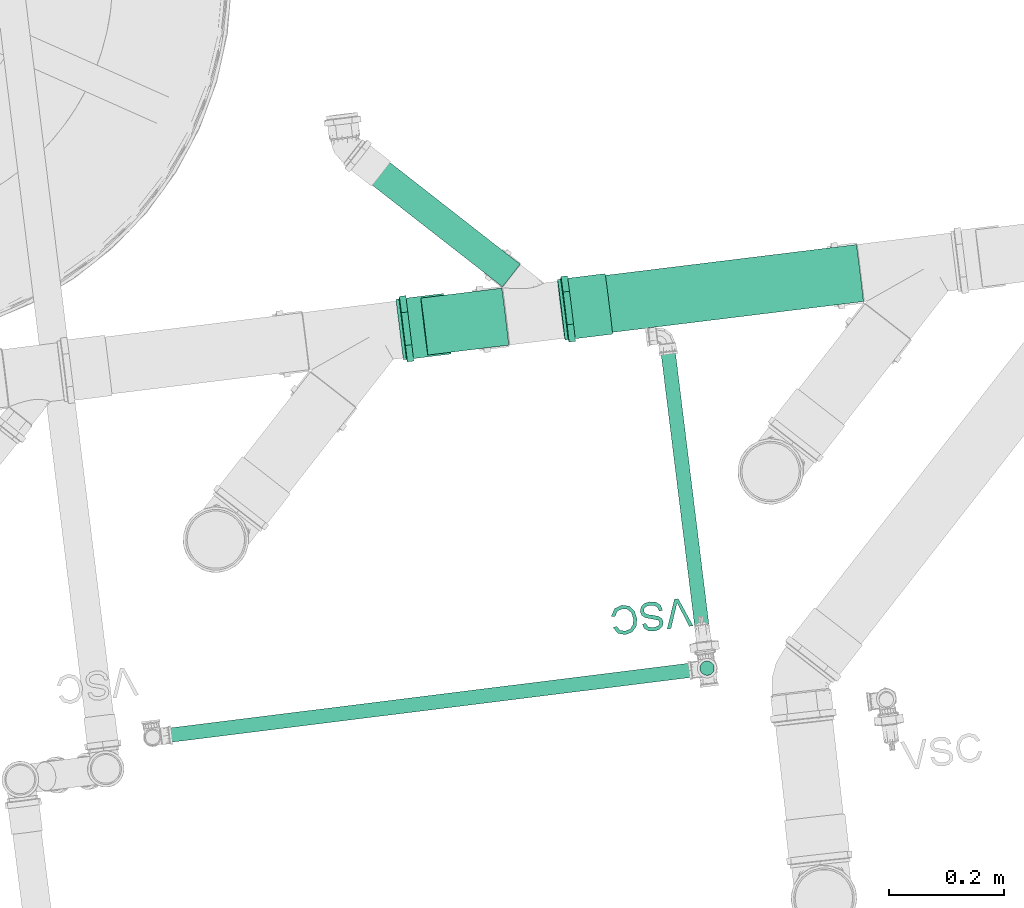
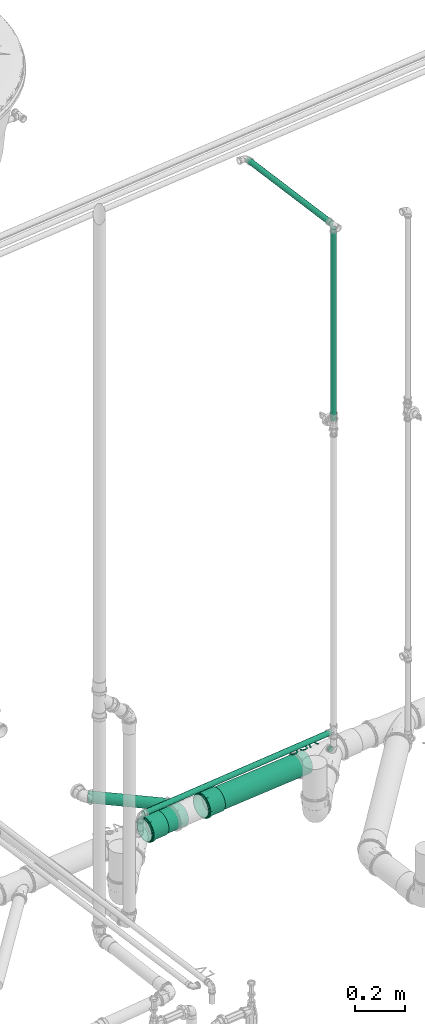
# One storey, part 24 of 97: 6 flow segments, 2 flow fittings, 1 flow terminal.
"""IFC2X3 building model written with IfcOpenShell, lengths in centimetres."""

import ifcopenshell
import ifcopenshell.guid

model = None  # the IFC model being written
_history = None  # IfcOwnerHistory: only IFC2X3 demands one
_inside = {}  # id of a spatial element -> (the spatial element, [elements in it])
_under = {}  # id of a project, library or spatial element -> (it, [spatial elements below it])
_declared = {}  # id of a project -> (the project, [libraries it declares])
_typed = {}  # id of a type object -> (the type object, [elements of that type])
_made_of = {}  # id of a material, layer set ... -> (it, [elements and type objects made of it])


def new_model(schema):
    """Start an empty IFC model of exactly this schema.

    Asked for "IFC4X3", IfcOpenShell would pick the latest addendum, in which some entities
    have other attributes; the version numbers below select the first issue.
    IFC2X3 requires an IfcOwnerHistory on every rooted entity: one is made here for all.
    """
    global model, _history
    if schema == "IFC4X3":
        model = ifcopenshell.file(schema_version=(4, 3, 0, 0))
    else:
        model = ifcopenshell.file(schema=schema)
    _inside.clear()
    _under.clear()
    _declared.clear()
    _typed.clear()
    _made_of.clear()
    _history = None
    if model.schema == "IFC2X3":
        org = make("IfcOrganization", Name="unknown")
        user = make(
            "IfcPersonAndOrganization",
            ThePerson=make("IfcPerson", FamilyName="unknown"),
            TheOrganization=org,
        )
        app = make(
            "IfcApplication",
            ApplicationDeveloper=org,
            Version="unknown",
            ApplicationFullName="unknown",
            ApplicationIdentifier="unknown",
        )
        _history = make(
            "IfcOwnerHistory",
            OwningUser=user,
            OwningApplication=app,
            ChangeAction="ADDED",
            CreationDate=0,
        )
    return model


def make(cls, **values):
    """One entity of the class cls with the attributes given. An attribute that is None is left unset."""
    return model.create_entity(
        cls, **{name: value for name, value in values.items() if value is not None}
    )


def entity(cls, *values):
    """Any entity or typed value of the class cls, its attributes in the order of the schema. None: left unset."""
    e = model.create_entity(cls)
    for i, value in enumerate(values):
        if value is not None:
            e[i] = value
    return e


def rooted(cls, **values):
    """An entity with a GlobalId (a new one), such as an element, a storey or a relation."""
    return make(cls, GlobalId=ifcopenshell.guid.new(), OwnerHistory=_history, **values)


def si_unit(unit_type, name, prefix=None):
    """IfcSIUnit, for example si_unit("LENGTHUNIT", "METRE", prefix="MILLI")."""
    return make("IfcSIUnit", UnitType=unit_type, Prefix=prefix, Name=name)


def converted_unit(unit_type, name, factor, base, dimensions=None, offset=None):
    """IfcConversionBasedUnit, such as the inch: factor (a typed value) times the base unit."""
    return make(
        "IfcConversionBasedUnit"
        if offset is None
        else "IfcConversionBasedUnitWithOffset",
        ConversionOffset=offset,
        Dimensions=None
        if dimensions is None
        else entity("IfcDimensionalExponents", *dimensions),
        UnitType=unit_type,
        Name=name,
        ConversionFactor=make(
            "IfcMeasureWithUnit", ValueComponent=factor, UnitComponent=base
        ),
    )


def derived_unit(unit_type, elements):
    """IfcDerivedUnit: a product of units, each with its exponent."""
    return make(
        "IfcDerivedUnit",
        Elements=[
            make("IfcDerivedUnitElement", Unit=unit, Exponent=power)
            for unit, power in elements
        ],
        UnitType=unit_type,
    )


def assignment(units):
    """IfcUnitAssignment: the units of a project."""
    return None if units is None else make("IfcUnitAssignment", Units=units)


def point(xyz):
    """IfcCartesianPoint."""
    return None if xyz is None else make("IfcCartesianPoint", Coordinates=xyz)


def direction(xyz):
    """IfcDirection."""
    return None if xyz is None else make("IfcDirection", DirectionRatios=xyz)


def frame(location, z_axis=None, x_axis=None):
    """IfcAxis2Placement3D, a coordinate frame: its origin and axes. An axis left out is left unset."""
    return make(
        "IfcAxis2Placement3D",
        Location=point(location),
        Axis=direction(z_axis),
        RefDirection=direction(x_axis),
    )


def frame_2d(location, x_axis=None):
    """IfcAxis2Placement2D, a coordinate frame in the plane: its origin and x axis."""
    return make(
        "IfcAxis2Placement2D", Location=point(location), RefDirection=direction(x_axis)
    )


def origin():
    """The frame at (0, 0, 0) with its axes left unset."""
    return frame((0.0, 0.0, 0.0))


def origin_2d_with_axis():
    """The frame at (0, 0) in the plane with the x axis (1, 0) written out."""
    return frame_2d((0.0, 0.0), x_axis=(1.0, 0.0))


def place(relative_to, where):
    """IfcLocalPlacement: puts the frame where relative to a parent placement (None: the world)."""
    return make(
        "IfcLocalPlacement", PlacementRelTo=relative_to, RelativePlacement=where
    )


def context(
    kind, dimensions, precision=None, world=None, true_north=None, identifier=None
):
    """IfcGeometricRepresentationContext, for example the 3D "Model" context."""
    return make(
        "IfcGeometricRepresentationContext",
        ContextIdentifier=identifier,
        ContextType=kind,
        CoordinateSpaceDimension=dimensions,
        Precision=precision,
        WorldCoordinateSystem=world,
        TrueNorth=true_north,
    )


def subcontext(parent, identifier, kind, view, scale=None):
    """IfcGeometricRepresentationSubContext, for example "Body" below "Model"."""
    return make(
        "IfcGeometricRepresentationSubContext",
        ContextIdentifier=identifier,
        ContextType=kind,
        ParentContext=parent,
        TargetScale=scale,
        TargetView=view,
    )


def project(units=None, contexts=None):
    """IfcProject with its units and contexts."""
    return rooted(
        "IfcProject",
        Name="project",
        RepresentationContexts=contexts,
        UnitsInContext=assignment(units),
    )


def spatial(cls, under=None, at=None, **own):
    """A site, building, storey or space (cls), placed at a placement, below another one or the project."""
    s = rooted(cls, ObjectPlacement=at, **own)
    if under is not None:
        _under.setdefault(under.id(), (under, []))[1].append(s)
    return s


def polyline(points):
    """IfcPolyline through the points."""
    return make("IfcPolyline", Points=[point(p) for p in points])


def profile(cls, at=None, kind="AREA", **sizes):
    """A parametric profile (cls). Its sizes go by their IFC names, for example OverallWidth=200.0."""
    return make(cls, ProfileType=kind, Position=at, **sizes)


def circle(**sizes):
    """IfcCircleProfileDef."""
    return profile("IfcCircleProfileDef", **sizes)


def outline(outer, holes=None, kind="AREA"):
    """IfcArbitraryClosedProfileDef: a profile drawn as a closed curve; with holes, ...WithVoids."""
    if holes is None:
        return make("IfcArbitraryClosedProfileDef", ProfileType=kind, OuterCurve=outer)
    return make(
        "IfcArbitraryProfileDefWithVoids",
        ProfileType=kind,
        OuterCurve=outer,
        InnerCurves=holes,
    )


def extrude(swept, where, along, depth):
    """IfcExtrudedAreaSolid: the profile swept, set in the frame where, extruded along a direction by depth."""
    return make(
        "IfcExtrudedAreaSolid",
        SweptArea=swept,
        Position=where,
        ExtrudedDirection=direction(along),
        Depth=depth,
    )


def faces_of(points, faces, orient=None, outer=None):
    """IfcFace entities. A face is a list of loops; a loop is a list of indices into points, from 0.

    orient and outer hold one flag for each loop. By default every Orientation is true, the
    first loop of a face is its IfcFaceOuterBound and the others are IfcFaceBound.
    """
    made = []
    for i, loops in enumerate(faces):
        bounds = []
        for j, loop in enumerate(loops):
            is_outer = j == 0 if outer is None else outer[i][j]
            bounds.append(
                make(
                    "IfcFaceOuterBound" if is_outer else "IfcFaceBound",
                    Bound=make("IfcPolyLoop", Polygon=[points[k] for k in loop]),
                    Orientation=True if orient is None else orient[i][j],
                )
            )
        made.append(make("IfcFace", Bounds=bounds))
    return made


def faceted_brep(points, faces, orient=None, outer=None, voids=None):
    """IfcFacetedBrep: a solid bounded by flat faces; with voids (closed shells), ...WithVoids."""
    shared = [point(p) for p in points]
    hull = make("IfcClosedShell", CfsFaces=faces_of(shared, faces, orient, outer))
    if voids is None:
        return make("IfcFacetedBrep", Outer=hull)
    return make(
        "IfcFacetedBrepWithVoids",
        Outer=hull,
        Voids=[
            make(cls, CfsFaces=faces_of(shared, fs, o, b)) for cls, fs, o, b in voids
        ],
    )


def shape(context_of_items, identifier, shape_type, items):
    """IfcShapeRepresentation: the items that make up one representation, for example the "Body"."""
    return make(
        "IfcShapeRepresentation",
        ContextOfItems=context_of_items,
        RepresentationIdentifier=identifier,
        RepresentationType=shape_type,
        Items=items,
    )


def source(mapping_origin, context_of_items, identifier, shape_type, items):
    """IfcRepresentationMap: a shape defined once, which mapped items show again and again."""
    return make(
        "IfcRepresentationMap",
        MappingOrigin=mapping_origin,
        MappedRepresentation=shape(context_of_items, identifier, shape_type, items),
    )


def transform(
    local_origin,
    x_axis=None,
    y_axis=None,
    z_axis=None,
    scale=None,
    scale2=None,
    scale3=None,
    uniform=True,
):
    """IfcCartesianTransformationOperator3D, or its non-uniform kind. x_axis, y_axis, z_axis: its Axis1, 2, 3."""
    if uniform:
        return make(
            "IfcCartesianTransformationOperator3D",
            Axis1=direction(x_axis),
            Axis2=direction(y_axis),
            LocalOrigin=point(local_origin),
            Scale=scale,
            Axis3=direction(z_axis),
        )
    return make(
        "IfcCartesianTransformationOperator3DnonUniform",
        Axis1=direction(x_axis),
        Axis2=direction(y_axis),
        LocalOrigin=point(local_origin),
        Scale=scale,
        Axis3=direction(z_axis),
        Scale2=scale2,
        Scale3=scale3,
    )


def mapped(mapping_source, mapping_target):
    """IfcMappedItem: shows the shape of a source again, moved by a transform."""
    return make(
        "IfcMappedItem", MappingSource=mapping_source, MappingTarget=mapping_target
    )


def material(Name=None, Category=None):
    """IfcMaterial."""
    return make("IfcMaterial", Name=Name, Category=Category)


def material_list(materials):
    """IfcMaterialList."""
    return make("IfcMaterialList", Materials=materials)


def made_of(thing, what):
    """Note that an element or type object is made of a material, layer set ...; save() writes the relation."""
    if what is not None:
        _made_of.setdefault(what.id(), (what, []))[1].append(thing)
    return thing


def type_object(cls, material=None, **own):
    """A type object (cls), such as IfcWallType, which elements share."""
    return made_of(rooted(cls, **own), material)


def type_shapes(of_type, sources):
    """Give a type object the sources (RepresentationMaps) that its elements show as mapped items."""
    of_type.RepresentationMaps = sources


def element(
    cls,
    number,
    at=None,
    inside=None,
    cuts=None,
    type_object=None,
    material=None,
    context=None,
    identifier="Body",
    shape_type=None,
    held_by="IfcProductDefinitionShape",
    body=None,
    shapes=None,
    **own,
):
    """One element of the class cls, such as IfcWall. Its Tag is "e" and its number.

    at: its placement. inside: the storey or other place that contains it. cuts: it is an
    opening in that element (IfcRelVoidsElement). A single representation is given by context,
    identifier, shape_type and body (its items); several are given by shapes. held_by: the class
    of the entity that holds the representations. save() writes the other relations.
    """
    e = rooted(cls, Tag="e%d" % number, ObjectPlacement=at, **own)
    if body is not None:
        shapes = [shape(context, identifier, shape_type, body)]
    if shapes is not None:
        e.Representation = make(held_by, Representations=shapes)
    if inside is not None:
        _inside.setdefault(inside.id(), (inside, []))[1].append(e)
    if cuts is not None:
        rooted(
            "IfcRelVoidsElement", RelatingBuildingElement=cuts, RelatedOpeningElement=e
        )
    if type_object is not None:
        _typed.setdefault(type_object.id(), (type_object, []))[1].append(e)
    return made_of(e, material)


def aggregate(whole, parts):
    """IfcRelAggregates: a whole, such as a stair, and the parts it consists of."""
    return rooted("IfcRelAggregates", RelatingObject=whole, RelatedObjects=parts)


def save(model, path):
    """Write the relations noted so far, then the file.

    IfcRelAggregates (storeys below a building ...), IfcRelContainedInSpatialStructure (elements
    in a storey), IfcRelDefinesByType, IfcRelAssociatesMaterial and IfcRelDeclares: one each for
    every whole, place, type object, material and project.
    """
    for whole, parts in _under.values():
        aggregate(whole, parts)
    for where, things in _inside.values():
        rooted(
            "IfcRelContainedInSpatialStructure",
            RelatedElements=things,
            RelatingStructure=where,
        )
    for kind, things in _typed.values():
        rooted("IfcRelDefinesByType", RelatedObjects=things, RelatingType=kind)
    for what, things in _made_of.values():
        rooted("IfcRelAssociatesMaterial", RelatedObjects=things, RelatingMaterial=what)
    for by, libraries in _declared.values():
        rooted("IfcRelDeclares", RelatingContext=by, RelatedDefinitions=libraries)
    model.write(path)


model = new_model("IFC2X3")

# Units and contexts
model_context = context("Model", 3, precision=0.001, world=origin(), true_north=direction((6.12303176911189e-17, 1.0)))
body_context = subcontext(model_context, "Body", "Model", "MODEL_VIEW")
ifc_project = project(units=[si_unit("LENGTHUNIT", "METRE", prefix="CENTI"), si_unit("AREAUNIT", "SQUARE_METRE"), si_unit("VOLUMEUNIT", "CUBIC_METRE"), converted_unit("PLANEANGLEUNIT", "DEGREE", entity("IfcRatioMeasure", 0.0174532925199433), si_unit("PLANEANGLEUNIT", "RADIAN"), dimensions=[0, 0, 0, 0, 0, 0, 0]), si_unit("MASSUNIT", "GRAM", prefix="KILO"), derived_unit("MASSDENSITYUNIT", [(si_unit("MASSUNIT", "GRAM", prefix="KILO"), 1), (si_unit("LENGTHUNIT", "METRE"), -3)]), derived_unit("MOMENTOFINERTIAUNIT", [(si_unit("LENGTHUNIT", "METRE"), 4)]), si_unit("TIMEUNIT", "SECOND"), si_unit("FREQUENCYUNIT", "HERTZ"), si_unit("THERMODYNAMICTEMPERATUREUNIT", "DEGREE_CELSIUS"), derived_unit("THERMALTRANSMITTANCEUNIT", [(si_unit("MASSUNIT", "GRAM", prefix="KILO"), 1), (si_unit("THERMODYNAMICTEMPERATUREUNIT", "KELVIN"), -1), (si_unit("TIMEUNIT", "SECOND"), -3)]), derived_unit("VOLUMETRICFLOWRATEUNIT", [(si_unit("LENGTHUNIT", "METRE"), 3), (si_unit("TIMEUNIT", "SECOND"), -1)]), si_unit("ELECTRICCURRENTUNIT", "AMPERE"), si_unit("ELECTRICVOLTAGEUNIT", "VOLT"), si_unit("POWERUNIT", "WATT"), si_unit("FORCEUNIT", "NEWTON", prefix="KILO"), si_unit("ILLUMINANCEUNIT", "LUX"), si_unit("LUMINOUSFLUXUNIT", "LUMEN"), si_unit("LUMINOUSINTENSITYUNIT", "CANDELA"), derived_unit("USERDEFINED", [(si_unit("MASSUNIT", "GRAM", prefix="KILO"), -1), (si_unit("LENGTHUNIT", "METRE"), -2), (si_unit("TIMEUNIT", "SECOND"), 3), (si_unit("LUMINOUSFLUXUNIT", "LUMEN"), 1)]), derived_unit("LINEARVELOCITYUNIT", [(si_unit("LENGTHUNIT", "METRE"), 1), (si_unit("TIMEUNIT", "SECOND"), -1)]), si_unit("PRESSUREUNIT", "PASCAL"), derived_unit("USERDEFINED", [(si_unit("LENGTHUNIT", "METRE"), -2), (si_unit("MASSUNIT", "GRAM", prefix="KILO"), 1), (si_unit("TIMEUNIT", "SECOND"), -2)]), derived_unit("LINEARFORCEUNIT", [(si_unit("MASSUNIT", "GRAM", prefix="KILO"), 1), (si_unit("LENGTHUNIT", "METRE"), 1), (si_unit("TIMEUNIT", "SECOND"), -2), (si_unit("LENGTHUNIT", "METRE"), -1)]), derived_unit("PLANARFORCEUNIT", [(si_unit("MASSUNIT", "GRAM", prefix="KILO"), 1), (si_unit("LENGTHUNIT", "METRE"), 1), (si_unit("TIMEUNIT", "SECOND"), -2), (si_unit("LENGTHUNIT", "METRE"), -2)])], contexts=[model_context])

# Site, building, storey
site_placement = place(None, origin())
site = spatial("IfcSite", under=ifc_project, at=site_placement, Name="Default", CompositionType="ELEMENT")
building_placement = place(site_placement, origin())
building = spatial("IfcBuilding", under=site, at=building_placement, Name="HIDROSSANITÁRIO", CompositionType="ELEMENT")
storey_placement = place(building_placement, frame((0.0, 0.0, -260.0)))
storey = spatial("IfcBuildingStorey", under=building, at=storey_placement, Name="TÉRREO-HID", CompositionType="ELEMENT", Elevation=-260.0)

# Flow segments
pipe_segment_type_1 = type_object("IfcPipeSegmentType", Name="Tipos de tubos:Tubo Marrom - Água Fria - Soldável", PredefinedType="NOTDEFINED")
flow_segment_1_placement = place(storey_placement, origin())
element("IfcFlowSegment", 1, at=flow_segment_1_placement, inside=storey, type_object=pipe_segment_type_1, Name="Tipos de tubos:Tubo Marrom - Água Fria - Soldável", ObjectType="Tipos de tubos:Tubo Marrom - Água Fria - Soldável", context=body_context, shape_type="SweptSolid", body=[
    extrude(circle(Radius=1.25, at=origin_2d_with_axis()), frame((-1604.66303266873, 2907.75219175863, 30.0), z_axis=(0.992315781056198, 0.12373112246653, 0.0), x_axis=(0.12373112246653, -0.992315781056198, 0.0)), (0.0, 0.0, 1.0), 94.23277941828),
])
flow_segment_2_placement = place(storey_placement, origin())
element("IfcFlowSegment", 2, at=flow_segment_2_placement, inside=storey, type_object=pipe_segment_type_1, Name="Tipos de tubos:Tubo Marrom - Água Fria - Soldável", ObjectType="Tipos de tubos:Tubo Marrom - Água Fria - Soldável", context=body_context, shape_type="SweptSolid", body=[
    extrude(circle(Radius=1.25, at=frame_2d((3.0654675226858e-21, -4.33146879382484e-13), x_axis=(1.0, 0.0))), frame((-1509.71550067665, 2919.59112945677, 182.0), z_axis=(-2.26470446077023e-07, 2.04376180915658e-06, 1.0), x_axis=(-1.0, 0.0, -2.26470446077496e-07)), (0.0, 0.0, 1.0), 93.9402573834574),
])
flow_segment_3_placement = place(storey_placement, origin())
element("IfcFlowSegment", 3, at=flow_segment_3_placement, inside=storey, type_object=pipe_segment_type_1, Name="Tipos de tubos:Tubo Marrom - Água Fria - Soldável", ObjectType="Tipos de tubos:Tubo Marrom - Água Fria - Soldável", context=body_context, shape_type="SweptSolid", body=[
    extrude(circle(Radius=1.25, at=frame_2d((-2.67880713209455e-13, -9.11370408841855e-18), x_axis=(1.0, 0.0))), frame((-1516.66014723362, 2975.99557307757, 277.388973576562), z_axis=(0.12219963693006, -0.992505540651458, 2.25902407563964e-05), x_axis=(0.992505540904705, 0.122199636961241, 0.0)), (0.0, 0.0, 1.0), 55.2401302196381),
])
pipe_segment_type_2 = type_object("IfcPipeSegmentType", Name="Tipos de tubos:Tubo - Esgoto - Série Normal", PredefinedType="NOTDEFINED")
flow_segment_4_placement = place(storey_placement, origin())
element("IfcFlowSegment", 4, at=flow_segment_4_placement, inside=storey, type_object=pipe_segment_type_2, Name="Tipos de tubos:Tubo - Esgoto - Série Normal", ObjectType="Tipos de tubos:Tubo - Esgoto - Série Normal", context=body_context, shape_type="SweptSolid", body=[
    extrude(circle(Radius=2.5, at=origin_2d_with_axis()), frame((-1543.80575304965, 2987.93998559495, -35.800184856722), z_axis=(-0.787905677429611, 0.61547107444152, 0.0199999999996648), x_axis=(-0.615594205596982, -0.788063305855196, 0.0)), (0.0, 0.0, 1.0), 34.9350621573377),
])
flow_segment_5_placement = place(storey_placement, origin())
element("IfcFlowSegment", 5, at=flow_segment_5_placement, inside=storey, type_object=pipe_segment_type_2, Name="Tipos de tubos:Tubo - Esgoto - Série Normal", ObjectType="Tipos de tubos:Tubo - Esgoto - Série Normal", context=body_context, shape_type="SweptSolid", body=[
    extrude(circle(Radius=5.0, at=origin_2d_with_axis()), frame((-1530.80945706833, 2982.50262980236, -35.7165583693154), z_axis=(0.992506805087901, 0.121779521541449, -0.00999949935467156), x_axis=(0.121785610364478, -0.992556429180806, 0.0)), (0.0, 0.0, 1.0), 48.0553797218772),
])
flow_segment_6_placement = place(storey_placement, origin())
element("IfcFlowSegment", 6, at=flow_segment_6_placement, inside=storey, type_object=pipe_segment_type_2, Name="Tipos de tubos:Tubo - Esgoto - Série Normal", ObjectType="Tipos de tubos:Tubo - Esgoto - Série Normal", context=body_context, shape_type="SweptSolid", body=[
    extrude(circle(Radius=5.0, at=origin_2d_with_axis()), frame((-1544.83351538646, 2980.77026558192, -35.5752683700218), z_axis=(-0.992515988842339, -0.121704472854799, 0.0100016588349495), x_axis=(0.121710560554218, -0.992565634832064, 0.0)), (0.0, 0.0, 1.0), 14.1934160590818),
])

# Flow fittings
ifc_material_1 = material(Name="PVC Branco")
pipe_fitting_type = type_object("IfcPipeFittingType", Name="Luva Simples para Conexão - Serie Normal - Esgoto - MEP - Tigre:Standard", PredefinedType="NOTDEFINED", material=ifc_material_1)
shared_shape_1 = source(origin(), body_context, "Body", "Brep", [
    faceted_brep([(1.77700000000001, 2.8725, -4.9753159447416), (1.77700000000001, 4.06232845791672, -4.06232845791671), (1.77700000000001, 2.65249999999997, -4.59426476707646), (1.77700000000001, 1.37303503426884, -5.12423650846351), (1.77700000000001, 1.48691541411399, -5.5492438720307), (1.77700000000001, 3.75120147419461, -3.75120147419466), (1.77700000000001, 4.9753159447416, -2.8725), (1.77700000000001, 4.59426476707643, -2.65250000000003), (1.77700000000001, 5.1242365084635, -1.37303503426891), (1.77700000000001, 5.5492438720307, -1.48691541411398), (1.77700000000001, 5.305, 0.0), (1.77700000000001, 5.745, 0.0), (1.77700000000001, 5.1242365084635, 1.3730350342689), (1.77700000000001, 5.54924387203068, 1.48691541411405), (1.77700000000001, 4.59426476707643, 2.65250000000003), (1.77700000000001, 4.97531594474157, 2.87250000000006), (1.77700000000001, 3.75120147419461, 3.75120147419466), (1.77700000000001, 4.06232845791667, 4.06232845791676), (1.77700000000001, 2.65249999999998, 4.59426476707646), (1.77700000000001, 2.87249999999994, 4.97531594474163), (1.77700000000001, 1.37303503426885, 5.12423650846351), (1.77700000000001, 1.48691541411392, 5.54924387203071), (1.77700000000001, 0.0, 5.305), (1.77700000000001, 0.0, 5.745), (1.77700000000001, -1.37303503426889, 5.1242365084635), (1.77700000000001, -1.48691541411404, 5.54924387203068), (1.77700000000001, -2.65250000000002, 4.59426476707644), (1.77700000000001, -2.87250000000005, 4.97531594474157), (1.77700000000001, -3.75120147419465, 3.75120147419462), (1.77700000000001, -4.06232845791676, 4.06232845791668), (1.77700000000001, -4.59426476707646, 2.65249999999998), (1.77700000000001, -4.97531594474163, 2.87249999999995), (1.77700000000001, -5.54924387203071, 1.48691541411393), (1.77700000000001, -5.12423650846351, 1.37303503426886), (1.77700000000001, -5.745, 0.0), (1.77700000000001, -5.305, 0.0), (1.77700000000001, -5.54924387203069, -1.486915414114), (1.77700000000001, -5.12423650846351, -1.37303503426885), (1.77700000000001, -4.97531594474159, -2.87250000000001), (1.77700000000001, -4.59426476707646, -2.65249999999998), (1.77700000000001, -4.06232845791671, -4.06232845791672), (1.77700000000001, -3.75120147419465, -3.75120147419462), (1.77700000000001, -2.87249999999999, -4.97531594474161), (1.77700000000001, -2.65250000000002, -4.59426476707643), (1.77700000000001, -1.48691541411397, -5.5492438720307), (1.77700000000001, -1.3730350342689, -5.1242365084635), (1.77700000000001, 0.0, -5.745), (1.77700000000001, 0.0, -5.305), (0.657000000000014, -1.93463887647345, 5.31665771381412), (0.657000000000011, -4.4007619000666, 3.69300957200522), (0.657000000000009, -4.89962626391, 2.82901737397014), (0.657000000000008, -5.39849062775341, 1.96502517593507), (0.657000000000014, -2.87216972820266, 4.97550661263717), (0.657000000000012, -3.63646581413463, 4.3342580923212), (0.657000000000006, -5.5717453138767, 0.982512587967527), (0.657000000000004, -5.745, 0.0), (0.657000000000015, -0.997108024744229, 5.65780881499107), (0.657000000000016, 0.998234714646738, 5.65761013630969), (0.657000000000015, 0.0005633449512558, 5.65770947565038), (0.657000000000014, 3.63732887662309, 4.33353383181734), (0.657000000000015, 1.93569761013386, 5.31627233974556), (0.657000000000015, 2.87316050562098, 4.97493454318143), (0.65700000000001, 5.39888184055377, 1.96395006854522), (0.657000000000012, 4.90018954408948, 2.82804159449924), (0.657000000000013, 4.40149724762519, 3.69213312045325), (0.657000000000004, 5.745, 0.0), (0.656999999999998, 4.40149724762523, -3.6921331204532), (0.657, 4.90018954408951, -2.82804159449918), (0.657000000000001, 5.39888184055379, -1.96395006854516), (0.656999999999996, 2.87316050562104, -4.9749345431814), (0.656999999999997, 3.63732887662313, -4.3335338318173), (0.656999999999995, 1.93569761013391, -5.31627233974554), (0.656999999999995, 0.998234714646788, -5.65761013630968), (0.656999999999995, -0.997108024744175, -5.65780881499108), (0.656999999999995, 0.000563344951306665, -5.65770947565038), (0.656999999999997, -3.6364658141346, -4.33425809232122), (0.656999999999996, -2.87216972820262, -4.9755066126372), (0.656999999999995, -1.9346388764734, -5.31665771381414), (0.657000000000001, -5.39849062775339, -1.96502517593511), (0.657, -4.89962626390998, -2.82901737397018), (0.656999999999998, -4.40076190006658, -3.69300957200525), (0.657000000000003, -5.5717453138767, -0.982512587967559), (8.35200000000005, 2.6525, -4.59426476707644), (8.35200000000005, 3.75120147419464, -3.75120147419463), (8.35200000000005, 2.49999999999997, -4.33012701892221), (8.35200000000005, 1.29409522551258, -4.82962913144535), (8.35200000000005, 1.37303503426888, -5.1242365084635), (8.35200000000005, 3.53553390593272, -3.53553390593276), (8.35200000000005, 4.59426476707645, -2.6525), (8.35200000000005, 4.33012701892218, -2.50000000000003), (8.35200000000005, 4.82962913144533, -1.29409522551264), (8.35200000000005, 5.12423650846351, -1.37303503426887), (8.35200000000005, 5.0, 0.0), (8.35200000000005, 5.305, 0.0), (8.35200000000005, 4.82962913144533, 1.29409522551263), (8.35200000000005, 5.12423650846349, 1.37303503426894), (8.35200000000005, 4.33012701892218, 2.50000000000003), (8.35200000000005, 4.59426476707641, 2.65250000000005), (8.35200000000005, 3.53553390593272, 3.53553390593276), (8.35200000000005, 3.75120147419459, 3.75120147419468), (8.35200000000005, 2.49999999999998, 4.33012701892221), (8.35200000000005, 2.65249999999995, 4.59426476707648), (8.35200000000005, 1.29409522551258, 4.82962913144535), (8.35200000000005, 1.37303503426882, 5.12423650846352), (8.35200000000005, 0.0, 5.0), (8.35200000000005, 0.0, 5.305), (8.35200000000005, -1.29409522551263, 4.82962913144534), (8.35200000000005, -1.37303503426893, 5.12423650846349), (8.35200000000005, -2.50000000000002, 4.33012701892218), (8.35200000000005, -2.65250000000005, 4.59426476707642), (8.35200000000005, -3.53553390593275, 3.53553390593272), (8.35200000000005, -3.75120147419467, 3.7512014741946), (8.35200000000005, -4.3301270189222, 2.49999999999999), (8.35200000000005, -4.59426476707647, 2.65249999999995), (8.35200000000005, -5.12423650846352, 1.37303503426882), (8.35200000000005, -4.82962913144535, 1.29409522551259), (8.35200000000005, -5.305, 0.0), (8.35200000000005, -5.0, 0.0), (8.35200000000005, -5.1242365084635, -1.37303503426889), (8.35200000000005, -4.82962913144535, -1.29409522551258), (8.35200000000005, -4.59426476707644, -2.65250000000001), (8.35200000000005, -4.3301270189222, -2.49999999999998), (8.35200000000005, -3.75120147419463, -3.75120147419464), (8.35200000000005, -3.53553390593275, -3.53553390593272), (8.35200000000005, -2.65249999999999, -4.59426476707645), (8.35200000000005, -2.50000000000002, -4.33012701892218), (8.35200000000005, -1.37303503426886, -5.12423650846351), (8.35200000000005, -1.29409522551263, -4.82962913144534), (8.35200000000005, 0.0, -5.305), (8.35200000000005, 0.0, -5.0), (0.0, 2.49999999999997, -4.33012701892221), (0.0, 3.75120147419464, -3.75120147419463), (0.0, 2.6525, -4.59426476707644), (0.0, 1.29409522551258, -4.82962913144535), (0.0, 3.53553390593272, -3.53553390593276), (0.0, 4.59426476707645, -2.6525), (0.0, 4.33012701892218, -2.50000000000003), (0.0, 4.82962913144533, -1.29409522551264), (0.0, 5.12423650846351, -1.37303503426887), (0.0, 5.0, 0.0), (0.0, 5.305, 0.0), (0.0, 4.82962913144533, 1.29409522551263), (0.0, 5.12423650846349, 1.37303503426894), (0.0, 4.33012701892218, 2.50000000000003), (0.0, 4.59426476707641, 2.65250000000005), (0.0, 3.53553390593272, 3.53553390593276), (0.0, 3.75120147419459, 3.75120147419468), (0.0, 2.49999999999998, 4.33012701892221), (0.0, 2.65249999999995, 4.59426476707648), (0.0, 1.29409522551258, 4.82962913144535), (0.0, 1.37303503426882, 5.12423650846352), (0.0, 0.0, 5.0), (0.0, 0.0, 5.305), (0.0, -1.29409522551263, 4.82962913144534), (0.0, -1.37303503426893, 5.12423650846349), (0.0, -2.50000000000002, 4.33012701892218), (0.0, -2.65250000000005, 4.59426476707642), (0.0, -3.53553390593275, 3.53553390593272), (0.0, -3.75120147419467, 3.7512014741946), (0.0, -4.3301270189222, 2.49999999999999), (0.0, -4.59426476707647, 2.65249999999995), (0.0, -5.12423650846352, 1.37303503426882), (0.0, -4.82962913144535, 1.29409522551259), (0.0, -5.305, 0.0), (0.0, -5.0, 0.0), (0.0, -5.1242365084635, -1.37303503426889), (0.0, -4.82962913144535, -1.29409522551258), (0.0, -4.59426476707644, -2.65250000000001), (0.0, -4.3301270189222, -2.49999999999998), (0.0, -3.75120147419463, -3.75120147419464), (0.0, -3.53553390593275, -3.53553390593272), (0.0, -2.65249999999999, -4.59426476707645), (0.0, -2.50000000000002, -4.33012701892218), (0.0, -1.37303503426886, -5.12423650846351), (0.0, -1.29409522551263, -4.82962913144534), (0.0, 0.0, -5.305), (0.0, 0.0, -5.0), (0.0, 1.37303503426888, -5.1242365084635), (0.537000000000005, -5.305, 0.0), (0.537000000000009, -4.98507989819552, 1.81438788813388), (0.537000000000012, -4.06390540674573, 3.4099410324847), (0.537000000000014, -2.65258010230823, 4.59421851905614), (0.537000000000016, -0.921325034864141, 5.22438371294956), (0.537000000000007, 5.1449924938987, 0.907324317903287), (0.537000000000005, 5.305, 0.0), (0.537000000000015, 2.65233979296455, 4.59435725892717), (0.537000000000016, 0.921051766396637, 5.22443189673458), (0.537000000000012, 4.06372704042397, 3.41015359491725), (0.537000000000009, 4.9849849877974, 1.81464863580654), (0.537000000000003, 5.14499249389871, -0.907324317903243), (0.537000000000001, 4.98498498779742, -1.81464863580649), (0.536999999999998, 4.063727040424, -3.41015359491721), (0.536999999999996, 2.6523397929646, -4.59435725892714), (0.536999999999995, 0.921051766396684, -5.22443189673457), (0.536999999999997, -2.6525801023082, -4.59421851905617), (0.536999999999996, -0.921325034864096, -5.22438371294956), (0.536999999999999, -4.0639054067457, -3.40994103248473), (0.537000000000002, -4.98507989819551, -1.81438788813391), (5.0, -5.0, 0.0), (5.0, 5.0, 0.0)], [[[0, 1, 2]], [[0, 2, 3]], [[3, 4, 0]], [[2, 1, 5]], [[6, 5, 1]], [[5, 6, 7]], [[7, 6, 8]], [[9, 8, 6]], [[9, 10, 8]], [[10, 9, 11]], [[12, 10, 11]], [[11, 13, 12]], [[12, 13, 14]], [[15, 14, 13]], [[14, 15, 16]], [[16, 15, 17]], [[18, 16, 17]], [[17, 19, 18]], [[18, 19, 20]], [[21, 20, 19]], [[20, 21, 22]], [[22, 21, 23]], [[22, 23, 24]], [[24, 23, 25]], [[24, 25, 26]], [[27, 26, 25]], [[27, 28, 26]], [[28, 27, 29]], [[29, 30, 28]], [[31, 30, 29]], [[30, 31, 32]], [[32, 33, 30]], [[34, 33, 32]], [[34, 35, 33]], [[36, 35, 34]], [[36, 37, 35]], [[37, 36, 38]], [[38, 39, 37]], [[39, 38, 40]], [[39, 40, 41]], [[40, 42, 41]], [[41, 42, 43]], [[43, 42, 44]], [[44, 45, 43]], [[46, 45, 44]], [[4, 47, 46]], [[46, 47, 45]], [[4, 3, 47]], [[48, 27, 25]], [[31, 29, 49]], [[31, 49, 50, 51]], [[52, 53, 27]], [[32, 51, 54]], [[54, 55, 34]], [[54, 34, 32]], [[25, 56, 48]], [[49, 29, 53]], [[23, 57, 58, 56]], [[59, 19, 17]], [[27, 53, 29]], [[48, 52, 27]], [[31, 51, 32]], [[57, 23, 21]], [[60, 19, 61]], [[15, 62, 63, 64]], [[19, 60, 21]], [[15, 13, 62]], [[17, 64, 59]], [[57, 21, 60]], [[23, 56, 25]], [[15, 64, 17]], [[13, 65, 62]], [[13, 11, 65]], [[59, 61, 19]], [[65, 11, 9]], [[6, 1, 66]], [[6, 66, 67, 68]], [[69, 70, 0]], [[68, 65, 9]], [[71, 69, 0]], [[71, 0, 4]], [[4, 72, 71]], [[66, 1, 70]], [[46, 73, 74, 72]], [[75, 76, 42]], [[0, 70, 1]], [[75, 42, 40]], [[6, 68, 9]], [[73, 46, 44]], [[77, 42, 76]], [[38, 78, 79, 80]], [[42, 77, 44]], [[38, 36, 78]], [[40, 80, 75]], [[73, 44, 77]], [[46, 72, 4]], [[38, 80, 40]], [[81, 78, 36]], [[55, 81, 34]], [[34, 81, 36]], [[82, 83, 84]], [[82, 84, 85]], [[85, 86, 82]], [[84, 83, 87]], [[88, 87, 83]], [[87, 88, 89]], [[89, 88, 90]], [[91, 90, 88]], [[91, 92, 90]], [[92, 91, 93]], [[94, 92, 93]], [[93, 95, 94]], [[94, 95, 96]], [[97, 96, 95]], [[96, 97, 98]], [[98, 97, 99]], [[100, 98, 99]], [[99, 101, 100]], [[100, 101, 102]], [[103, 102, 101]], [[102, 103, 104]], [[104, 103, 105]], [[104, 105, 106]], [[106, 105, 107]], [[106, 107, 108]], [[109, 108, 107]], [[110, 108, 109]], [[110, 109, 111]], [[111, 112, 110]], [[113, 112, 111]], [[112, 113, 114]], [[114, 115, 112]], [[116, 115, 114]], [[116, 117, 115]], [[118, 117, 116]], [[118, 119, 117]], [[119, 118, 120]], [[120, 121, 119]], [[121, 120, 122]], [[121, 122, 123]], [[122, 124, 123]], [[125, 123, 124]], [[125, 124, 126]], [[126, 127, 125]], [[128, 127, 126]], [[86, 129, 128]], [[128, 129, 127]], [[86, 85, 129]], [[130, 131, 132]], [[133, 130, 132]], [[134, 131, 130]], [[131, 134, 135]], [[136, 135, 134]], [[137, 135, 136]], [[135, 137, 138]], [[137, 139, 138]], [[140, 138, 139]], [[140, 139, 141]], [[141, 142, 140]], [[143, 142, 141]], [[142, 143, 144]], [[145, 144, 143]], [[146, 144, 145]], [[146, 145, 147]], [[147, 148, 146]], [[149, 148, 147]], [[148, 149, 150]], [[151, 150, 149]], [[152, 150, 151]], [[153, 152, 151]], [[154, 152, 153]], [[155, 154, 153]], [[154, 155, 156]], [[156, 155, 157]], [[158, 156, 157]], [[157, 159, 158]], [[158, 159, 160]], [[161, 160, 159]], [[159, 162, 161]], [[161, 162, 163]], [[162, 164, 163]], [[163, 164, 165]], [[164, 166, 165]], [[167, 165, 166]], [[166, 168, 167]], [[169, 167, 168]], [[170, 169, 168]], [[170, 171, 169]], [[171, 170, 172]], [[173, 171, 172]], [[172, 174, 173]], [[173, 174, 175]], [[174, 176, 175]], [[176, 133, 177]], [[175, 176, 177]], [[132, 177, 133]], [[161, 178, 179]], [[158, 180, 181]], [[179, 180, 160]], [[181, 182, 154]], [[179, 160, 161]], [[161, 163, 178]], [[35, 116, 114, 33]], [[183, 184, 140]], [[181, 156, 158]], [[158, 160, 180]], [[181, 154, 156]], [[182, 152, 154]], [[183, 140, 142]], [[185, 150, 186]], [[187, 146, 185]], [[142, 188, 183]], [[187, 188, 144]], [[185, 148, 150]], [[150, 152, 186]], [[187, 144, 146]], [[146, 148, 185]], [[188, 142, 144]], [[186, 152, 182]], [[189, 190, 138]], [[131, 191, 192]], [[190, 191, 135]], [[192, 193, 177]], [[190, 135, 138]], [[184, 189, 140]], [[192, 132, 131]], [[131, 135, 191]], [[192, 177, 132]], [[193, 175, 177]], [[140, 189, 138]], [[194, 173, 195]], [[196, 169, 194]], [[165, 197, 178]], [[196, 197, 167]], [[165, 178, 163]], [[35, 37, 118, 116]], [[194, 171, 173]], [[173, 175, 195]], [[196, 167, 169]], [[169, 171, 194]], [[197, 165, 167]], [[195, 175, 193]], [[115, 117, 198, 164, 162]], [[155, 108, 110, 157]], [[110, 112, 159, 157]], [[112, 115, 162, 159]], [[106, 108, 155, 153]], [[153, 151, 104, 106]], [[102, 104, 151, 149]], [[102, 149, 147, 100]], [[141, 94, 96, 143]], [[96, 98, 145, 143]], [[98, 100, 147, 145]], [[92, 94, 141, 139, 199]], [[199, 139, 137, 90, 92]], [[87, 89, 136, 134]], [[134, 130, 84, 87]], [[89, 90, 137, 136]], [[85, 84, 130, 133]], [[133, 176, 129, 85]], [[127, 129, 176, 174]], [[127, 174, 172, 125]], [[166, 119, 121, 168]], [[121, 123, 170, 168]], [[123, 125, 172, 170]], [[117, 119, 166, 164, 198]], [[81, 178, 197]], [[190, 68, 67]], [[194, 75, 196]], [[193, 72, 74]], [[195, 77, 194]], [[79, 197, 196]], [[81, 55, 178]], [[192, 69, 71]], [[79, 78, 197]], [[194, 77, 76]], [[191, 66, 70]], [[80, 196, 75]], [[68, 190, 189]], [[74, 195, 193]], [[192, 71, 193]], [[190, 67, 191]], [[70, 192, 191]], [[65, 189, 184]], [[195, 73, 77]], [[193, 71, 72]], [[197, 78, 81]], [[191, 67, 66]], [[189, 65, 68]], [[196, 80, 79]], [[70, 69, 192]], [[194, 76, 75]], [[73, 195, 74]], [[65, 183, 62]], [[48, 56, 182]], [[58, 182, 56]], [[54, 51, 179]], [[59, 185, 61]], [[60, 186, 57]], [[53, 52, 181]], [[63, 187, 64]], [[58, 57, 186]], [[187, 63, 188]], [[186, 60, 185]], [[50, 49, 180]], [[185, 59, 187]], [[59, 64, 187]], [[182, 58, 186]], [[50, 179, 51]], [[54, 178, 55]], [[53, 180, 49]], [[63, 62, 188]], [[181, 48, 182]], [[183, 65, 184]], [[179, 50, 180]], [[178, 54, 179]], [[183, 188, 62]], [[180, 53, 181]], [[60, 61, 185]], [[48, 181, 52]], [[30, 33, 114, 113]], [[26, 28, 111, 109]], [[113, 111, 28, 30]], [[107, 24, 26, 109]], [[107, 105, 22, 24]], [[18, 20, 103, 101]], [[99, 16, 18, 101]], [[12, 14, 97, 95]], [[99, 97, 14, 16]], [[10, 12, 95, 93]], [[103, 20, 22, 105]], [[91, 8, 10, 93]], [[88, 7, 8, 91]], [[82, 86, 3, 2]], [[83, 5, 7, 88]], [[2, 5, 83, 82]], [[86, 128, 47, 3]], [[43, 45, 126, 124]], [[122, 41, 43, 124]], [[37, 39, 120, 118]], [[122, 120, 39, 41]], [[126, 45, 47, 128]]]),
])
type_shapes(pipe_fitting_type, [shared_shape_1])
for number, where, z_axis, x_axis, name in (
    (7, (-1563.20934931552, 2978.51504272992, -35.4333106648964), (0.0, 0.0, -1.0), (0.992511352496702, 0.122152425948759, 0.0), "Luva Simples para Conexão - Serie Normal - Esgoto - MEP - Tigre:Standard"),
    (8, (-1535.0994507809, 2981.96827667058, -35.6733483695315), (0.00632363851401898, 0.0304486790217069, 0.999516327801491), (0.992461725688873, 0.122146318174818, -0.00999999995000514), "Luva Simples para Conexão - Serie Normal - Esgoto - MEP - Tigre:Standard"),
):
    element("IfcFlowFitting", number, at=place(storey_placement, frame(where, z_axis=z_axis, x_axis=x_axis)), inside=storey, type_object=pipe_fitting_type, material=ifc_material_1, Name=name, ObjectType="Luva Simples para Conexão - Serie Normal - Esgoto - MEP - Tigre:Standard", context=body_context, shape_type="MappedRepresentation", body=[
        mapped(shared_shape_1, transform((0.0, 0.0, 0.0), scale=1.0)),
    ])

# Flow terminal
ifc_material_2 = material(Name=".ID PONTOS DE CONSUMO")
ifc_material_3 = material(Name="<Unnamed>")
ifc_material_list_1 = material_list([ifc_material_2, ifc_material_3])
ifc_material_list_2 = material_list([ifc_material_2, ifc_material_2, ifc_material_2, ifc_material_3])
distribution_element_type = type_object("IfcDistributionElementType", Name="Pontos de Consumo :BACIA SANITARIA CAIXA ACOPLADA", material=ifc_material_list_2)
shared_shape_2 = source(origin(), body_context, "Body", "SweptSolid", [
    extrude(outline(polyline([(-0.291035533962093, -2.60978212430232), (0.357663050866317, -2.60978212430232), (2.27187569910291, 2.41303338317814), (1.59987792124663, 2.41303338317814), (0.258334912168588, -1.20569917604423), (-0.00899267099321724, -2.02117093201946), (-0.279999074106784, -1.20569917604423), (-1.61786326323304, 2.41303338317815), (-2.28986104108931, 2.41303338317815), (-0.291035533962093, -2.60978212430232)])), frame((-3.80140883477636, 8.38581599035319, 0.0), z_axis=(0.0, 0.0, 1.0), x_axis=(-1.0, 0.0, 0.0)), (0.0, 0.0, 1.0), 0.2),
    extrude(outline(polyline([(0.159986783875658, -2.14384430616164), (1.15649137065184, -2.14384430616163), (1.96068557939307, -1.63393256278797), (2.46863484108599, -0.612133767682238), (2.53870698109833, 0.35501055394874), (2.18730732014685, 1.12715089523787), (1.52572011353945, 1.54795570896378), (0.789276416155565, 1.5528298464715), (0.13430777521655, 1.10651277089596), (-0.471111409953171, 0.123091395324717), (-1.0874076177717, -0.768054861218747), (-1.56068636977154, -0.842013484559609), (-1.9855059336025, -0.428866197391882), (-1.94874467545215, 0.494808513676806), (-1.4949111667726, 1.29806637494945), (-0.777489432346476, 1.46486449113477), (-0.606740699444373, 2.06905231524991), (-1.430854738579, 2.04327069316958), (-2.11718460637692, 1.54911010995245), (-2.55960237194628, 0.64195615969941), (-2.6481064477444, -0.300227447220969), (-2.33838066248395, -1.04848451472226), (-1.71373428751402, -1.45120371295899), (-1.06523029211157, -1.45161416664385), (-0.470393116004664, -1.06476156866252), (0.0951992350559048, -0.201975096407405), (0.574519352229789, 0.612557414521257), (0.964937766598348, 0.945679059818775), (1.37031208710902, 0.9394324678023), (1.73780922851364, 0.690941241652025), (1.92586114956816, 0.197524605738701), (1.85777714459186, -0.464986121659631), (1.50727535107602, -1.14835302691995), (0.990539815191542, -1.51586299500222), (0.330735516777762, -1.5396564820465), (0.159986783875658, -2.14384430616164)])), frame((-8.44107816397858, 8.53201502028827, 0.0), z_axis=(0.0, 0.0, 1.0), x_axis=(-0.271957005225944, 0.9623094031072, 0.0)), (0.0, 0.0, 1.0), 0.2),
    extrude(outline(polyline([(-0.163864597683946, -1.7964904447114), (-0.337097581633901, -2.4213021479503), (1.13156474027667, -2.40853999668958), (2.16562908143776, -1.48721709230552), (2.53219172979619, -0.190439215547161), (2.08718308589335, 0.950570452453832), (1.05509329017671, 1.8489065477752), (-0.275927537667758, 2.27270776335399), (-1.46466906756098, 1.98187536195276), (-2.32904298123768, 1.08731397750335), (-2.61799066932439, -0.197577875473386), (-2.01807585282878, -1.36204183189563), (-1.57497165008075, -0.892746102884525), (-1.98665363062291, -0.0610798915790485), (-1.77280525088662, 0.795082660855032), (-1.04969465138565, 1.51204662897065), (-0.147902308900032, 1.63280778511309), (0.740549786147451, 1.30552643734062), (1.58306630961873, 0.601352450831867), (1.88727594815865, -0.254715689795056), (1.65286235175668, -1.11954933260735), (0.903279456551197, -1.7964904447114), (-0.163864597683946, -1.7964904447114)])), frame((-13.1807089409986, 8.45514997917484, 0.0), z_axis=(0.0, 0.0, -1.0), x_axis=(0.499291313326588, 0.866434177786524, 0.0)), (0.0, 0.0, -1.0), 0.2),
    extrude(circle(Radius=1.25, at=frame_2d((-6.58881963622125e-17, -2.01943071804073e-15), x_axis=(1.0, 0.0))), frame((0.0, 0.0, 0.0), z_axis=(0.0, 1.0, 0.0), x_axis=(1.0, 0.0, 0.0)), (0.0, 0.0, 1.0), 1.0),
])
type_shapes(distribution_element_type, [shared_shape_2])
flow_terminal_placement = place(storey_placement, frame((-1509.91460913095, 2921.20892296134, 20.0), z_axis=(0.0, 0.0, 1.0), x_axis=(0.992511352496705, 0.122152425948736, 0.0)))
element("IfcFlowTerminal", 9, at=flow_terminal_placement, inside=storey, type_object=distribution_element_type, material=ifc_material_list_1, Name="Pontos de Consumo :BACIA SANITARIA CAIXA ACOPLADA", ObjectType="Pontos de Consumo :BACIA SANITARIA CAIXA ACOPLADA", context=body_context, shape_type="MappedRepresentation", body=[
    mapped(shared_shape_2, transform((0.0, 0.0, 0.0), scale=1.0)),
])

save(model, "model.ifc")
